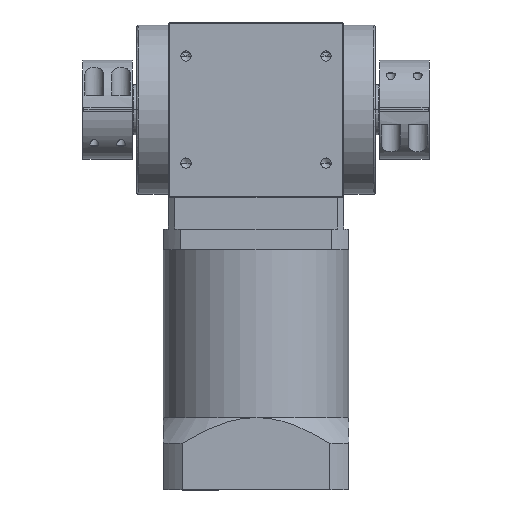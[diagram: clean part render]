
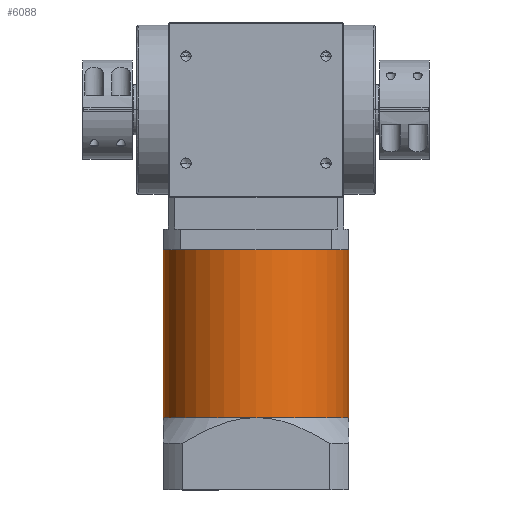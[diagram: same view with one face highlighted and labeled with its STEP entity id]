
A CAD part, top view. The second image highlights one B-rep face of the part: STEP entity #6088.
In plain terms, the highlighted cylindrical face has radius 45 mm (diameter 90 mm), a partial arc.
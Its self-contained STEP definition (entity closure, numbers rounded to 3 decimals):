
#358 = DIRECTION ( 'NONE',  ( -1., 0., 0. ) ) ;
#363 = CARTESIAN_POINT ( 'NONE',  ( 0., -149.5, 0. ) ) ;
#430 = DIRECTION ( 'NONE',  ( 0., 1., 0. ) ) ;
#454 = ORIENTED_EDGE ( 'NONE', *, *, #787, .T. ) ;
#712 = AXIS2_PLACEMENT_3D ( 'NONE', #9550, #11247, #761 ) ;
#748 = CARTESIAN_POINT ( 'NONE',  ( 0., -149.5, 45. ) ) ;
#761 = DIRECTION ( 'NONE',  ( -1., 0., 0. ) ) ;
#787 = EDGE_CURVE ( 'NONE', #7283, #7371, #4362, .T. ) ;
#1123 = EDGE_CURVE ( 'NONE', #11833, #5475, #7286, .T. ) ;
#1281 = CARTESIAN_POINT ( 'NONE',  ( -45., -149.5, 0. ) ) ;
#1383 = ORIENTED_EDGE ( 'NONE', *, *, #10866, .F. ) ;
#1795 = FACE_OUTER_BOUND ( 'NONE', #3819, .T. ) ;
#2022 = VERTEX_POINT ( 'NONE', #2141 ) ;
#2141 = CARTESIAN_POINT ( 'NONE',  ( -45., -149.5, 0. ) ) ;
#2539 = EDGE_CURVE ( 'NONE', #10140, #7283, #5276, .T. ) ;
#2959 = ORIENTED_EDGE ( 'NONE', *, *, #2539, .T. ) ;
#3201 = LINE ( 'NONE', #1281, #3237 ) ;
#3237 = VECTOR ( 'NONE', #4285, 1000. ) ;
#3298 = EDGE_CURVE ( 'NONE', #5475, #10140, #9804, .T. ) ;
#3819 = EDGE_LOOP ( 'NONE', ( #7543, #12122, #2959, #454, #1383, #4530 ) ) ;
#3962 = AXIS2_PLACEMENT_3D ( 'NONE', #10267, #4358, #11186 ) ;
#4285 = DIRECTION ( 'NONE',  ( 0., 1., 0. ) ) ;
#4330 = CARTESIAN_POINT ( 'NONE',  ( 45., -149.5, 0. ) ) ;
#4358 = DIRECTION ( 'NONE',  ( 0., 1., 0. ) ) ;
#4362 = CIRCLE ( 'NONE', #12402, 45. ) ;
#4530 = ORIENTED_EDGE ( 'NONE', *, *, #8200, .T. ) ;
#4816 = DIRECTION ( 'NONE',  ( 0., 1., 0. ) ) ;
#4880 = CARTESIAN_POINT ( 'NONE',  ( 45., -149.5, 0. ) ) ;
#5276 = CIRCLE ( 'NONE', #712, 45. ) ;
#5475 = VERTEX_POINT ( 'NONE', #4330 ) ;
#5762 = CARTESIAN_POINT ( 'NONE',  ( 0., -68., 45. ) ) ;
#6088 = ADVANCED_FACE ( 'NONE', ( #1795 ), #12358, .T. ) ;
#7280 = AXIS2_PLACEMENT_3D ( 'NONE', #363, #430, #358 ) ;
#7283 = VERTEX_POINT ( 'NONE', #5762 ) ;
#7286 = CIRCLE ( 'NONE', #9945, 45. ) ;
#7371 = VERTEX_POINT ( 'NONE', #7805 ) ;
#7543 = ORIENTED_EDGE ( 'NONE', *, *, #1123, .T. ) ;
#7805 = CARTESIAN_POINT ( 'NONE',  ( -45., -68., 0. ) ) ;
#8200 = EDGE_CURVE ( 'NONE', #2022, #11833, #11793, .T. ) ;
#8771 = VECTOR ( 'NONE', #4816, 1000. ) ;
#9550 = CARTESIAN_POINT ( 'NONE',  ( 0., -68., 0. ) ) ;
#9804 = LINE ( 'NONE', #4880, #8771 ) ;
#9945 = AXIS2_PLACEMENT_3D ( 'NONE', #12064, #12082, #12089 ) ;
#9997 = CARTESIAN_POINT ( 'NONE',  ( 0., -68., 0. ) ) ;
#10004 = DIRECTION ( 'NONE',  ( 0., -1., 0. ) ) ;
#10018 = DIRECTION ( 'NONE',  ( -1., 0., 0. ) ) ;
#10140 = VERTEX_POINT ( 'NONE', #12467 ) ;
#10267 = CARTESIAN_POINT ( 'NONE',  ( 0., -149.5, 0. ) ) ;
#10866 = EDGE_CURVE ( 'NONE', #2022, #7371, #3201, .T. ) ;
#11186 = DIRECTION ( 'NONE',  ( -1., 0., 0. ) ) ;
#11247 = DIRECTION ( 'NONE',  ( 0., -1., 0. ) ) ;
#11793 = CIRCLE ( 'NONE', #3962, 45. ) ;
#11833 = VERTEX_POINT ( 'NONE', #748 ) ;
#12064 = CARTESIAN_POINT ( 'NONE',  ( 0., -149.5, 0. ) ) ;
#12082 = DIRECTION ( 'NONE',  ( 0., 1., 0. ) ) ;
#12089 = DIRECTION ( 'NONE',  ( -1., 0., 0. ) ) ;
#12122 = ORIENTED_EDGE ( 'NONE', *, *, #3298, .T. ) ;
#12358 = CYLINDRICAL_SURFACE ( 'NONE', #7280, 45. ) ;
#12402 = AXIS2_PLACEMENT_3D ( 'NONE', #9997, #10004, #10018 ) ;
#12467 = CARTESIAN_POINT ( 'NONE',  ( 45., -68., 0. ) ) ;
